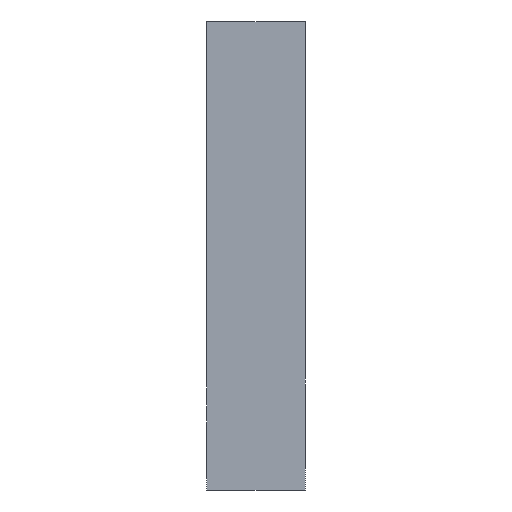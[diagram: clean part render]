
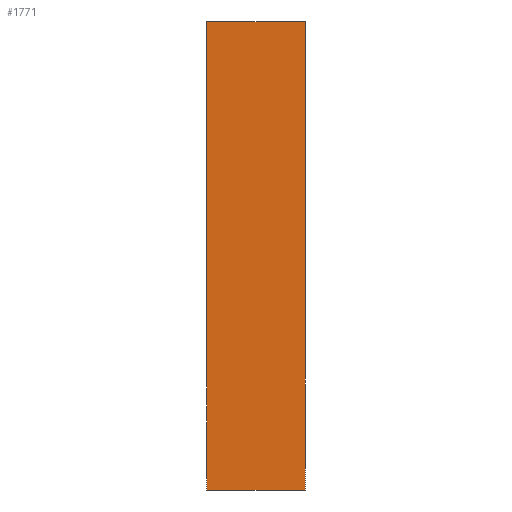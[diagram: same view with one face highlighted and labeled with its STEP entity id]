
A CAD part, left-side view. The second image highlights one B-rep face of the part: STEP entity #1771.
In plain terms, the highlighted planar face has unit normal (-1, 0, 0).
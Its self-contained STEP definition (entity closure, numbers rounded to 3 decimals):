
#28 = DIRECTION ( 'NONE',  ( 0., -1., 0. ) ) ;
#45 = DIRECTION ( 'NONE',  ( 0., 0., 1. ) ) ;
#75 = CARTESIAN_POINT ( 'NONE',  ( -30., 4., -19. ) ) ;
#99 = CARTESIAN_POINT ( 'NONE',  ( -30., -4., 19. ) ) ;
#176 = VERTEX_POINT ( 'NONE', #2002 ) ;
#254 = LINE ( 'NONE', #1358, #1964 ) ;
#418 = EDGE_CURVE ( 'NONE', #2113, #176, #1625, .T. ) ;
#460 = DIRECTION ( 'NONE',  ( 0., 0., 1. ) ) ;
#553 = VECTOR ( 'NONE', #460, 1000. ) ;
#600 = LINE ( 'NONE', #1461, #553 ) ;
#637 = DIRECTION ( 'NONE',  ( 0., 0., -1. ) ) ;
#680 = ORIENTED_EDGE ( 'NONE', *, *, #969, .T. ) ;
#808 = CARTESIAN_POINT ( 'NONE',  ( -30., 4., 19. ) ) ;
#840 = CARTESIAN_POINT ( 'NONE',  ( -30., 4., -19. ) ) ;
#843 = VERTEX_POINT ( 'NONE', #99 ) ;
#862 = VERTEX_POINT ( 'NONE', #1570 ) ;
#871 = ORIENTED_EDGE ( 'NONE', *, *, #1632, .F. ) ;
#969 = EDGE_CURVE ( 'NONE', #862, #843, #600, .T. ) ;
#1043 = ORIENTED_EDGE ( 'NONE', *, *, #1733, .T. ) ;
#1172 = VECTOR ( 'NONE', #45, 1000. ) ;
#1200 = CARTESIAN_POINT ( 'NONE',  ( -30., 4., -19. ) ) ;
#1250 = FACE_OUTER_BOUND ( 'NONE', #2133, .T. ) ;
#1358 = CARTESIAN_POINT ( 'NONE',  ( -30., 4., -19. ) ) ;
#1461 = CARTESIAN_POINT ( 'NONE',  ( -30., -4., -19. ) ) ;
#1570 = CARTESIAN_POINT ( 'NONE',  ( -30., -4., -19. ) ) ;
#1608 = VECTOR ( 'NONE', #2032, 1000. ) ;
#1625 = LINE ( 'NONE', #1200, #1172 ) ;
#1632 = EDGE_CURVE ( 'NONE', #176, #843, #2048, .T. ) ;
#1733 = EDGE_CURVE ( 'NONE', #2113, #862, #254, .T. ) ;
#1771 = ADVANCED_FACE ( 'NONE', ( #1250 ), #1983, .F. ) ;
#1818 = DIRECTION ( 'NONE',  ( 1., 0., 0. ) ) ;
#1855 = AXIS2_PLACEMENT_3D ( 'NONE', #840, #1818, #637 ) ;
#1964 = VECTOR ( 'NONE', #28, 1000. ) ;
#1983 = PLANE ( 'NONE',  #1855 ) ;
#1986 = ORIENTED_EDGE ( 'NONE', *, *, #418, .F. ) ;
#2002 = CARTESIAN_POINT ( 'NONE',  ( -30., 4., 19. ) ) ;
#2032 = DIRECTION ( 'NONE',  ( 0., -1., 0. ) ) ;
#2048 = LINE ( 'NONE', #808, #1608 ) ;
#2113 = VERTEX_POINT ( 'NONE', #75 ) ;
#2133 = EDGE_LOOP ( 'NONE', ( #680, #871, #1986, #1043 ) ) ;
